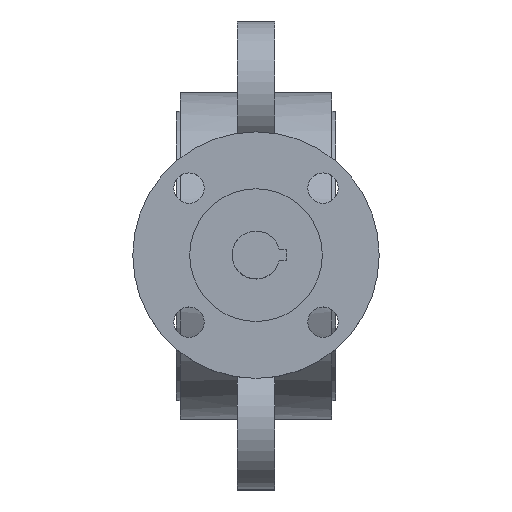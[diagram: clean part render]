
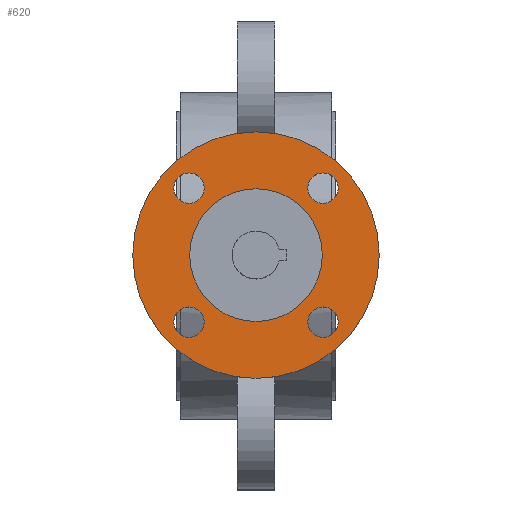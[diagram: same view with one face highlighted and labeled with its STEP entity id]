
A CAD part, top view. The second image highlights one B-rep face of the part: STEP entity #620.
In plain terms, the highlighted planar face has unit normal (0, 0, 1).
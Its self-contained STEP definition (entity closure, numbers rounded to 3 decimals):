
#620=ADVANCED_FACE('',(#1381,#1383,#1385,#1387,#1389,#1391),#1393,.T.);
#1381=FACE_BOUND('',#1382,.T.);
#1382=EDGE_LOOP('',(#1876));
#1383=FACE_BOUND('',#1384,.T.);
#1384=EDGE_LOOP('',(#1877));
#1385=FACE_BOUND('',#1386,.T.);
#1386=EDGE_LOOP('',(#1878));
#1387=FACE_BOUND('',#1388,.T.);
#1388=EDGE_LOOP('',(#1879));
#1389=FACE_BOUND('',#1390,.T.);
#1390=EDGE_LOOP('',(#1880));
#1391=FACE_BOUND('',#1392,.T.);
#1392=EDGE_LOOP('',(#1881));
#1393=PLANE('',#1394);
#1394=AXIS2_PLACEMENT_3D('',#1395,#1396,#1397);
#1395=CARTESIAN_POINT('',(0.,0.,132.));
#1396=DIRECTION('',(0.,0.,1.));
#1397=DIRECTION('',(0.,1.,0.));
#1876=ORIENTED_EDGE('',*,*,#2122,.F.);
#1877=ORIENTED_EDGE('',*,*,#2123,.T.);
#1878=ORIENTED_EDGE('',*,*,#2124,.T.);
#1879=ORIENTED_EDGE('',*,*,#2125,.T.);
#1880=ORIENTED_EDGE('',*,*,#2141,.T.);
#1881=ORIENTED_EDGE('',*,*,#2126,.T.);
#2122=EDGE_CURVE('',#2425,#2425,#2426,.T.);
#2123=EDGE_CURVE('',#2427,#2427,#2428,.F.);
#2124=EDGE_CURVE('',#2429,#2429,#2430,.F.);
#2125=EDGE_CURVE('',#2431,#2431,#2432,.F.);
#2126=EDGE_CURVE('',#2433,#2433,#2434,.F.);
#2141=EDGE_CURVE('',#2463,#2463,#2464,.T.);
#2425=VERTEX_POINT('',#4129);
#2426=CIRCLE('',#4130,32.5);
#2427=VERTEX_POINT('',#4134);
#2428=CIRCLE('',#4135,4.);
#2429=VERTEX_POINT('',#4139);
#2430=CIRCLE('',#4140,4.);
#2431=VERTEX_POINT('',#4144);
#2432=CIRCLE('',#4145,4.);
#2433=VERTEX_POINT('',#4149);
#2434=CIRCLE('',#4150,4.);
#2463=VERTEX_POINT('',#4217);
#2464=CIRCLE('',#4218,17.5);
#4129=CARTESIAN_POINT('',(0.,32.5,132.));
#4130=AXIS2_PLACEMENT_3D('',#4131,#4132,#4133);
#4131=CARTESIAN_POINT('',(0.,0.,132.));
#4132=DIRECTION('',(0.,0.,-1.));
#4133=DIRECTION('',(0.,1.,0.));
#4134=CARTESIAN_POINT('',(-13.678,-17.678,132.));
#4135=AXIS2_PLACEMENT_3D('',#4136,#4137,#4138);
#4136=CARTESIAN_POINT('',(-17.678,-17.678,132.));
#4137=DIRECTION('',(0.,0.,1.));
#4138=DIRECTION('',(1.,0.,0.));
#4139=CARTESIAN_POINT('',(-17.678,13.678,132.));
#4140=AXIS2_PLACEMENT_3D('',#4141,#4142,#4143);
#4141=CARTESIAN_POINT('',(-17.678,17.678,132.));
#4142=DIRECTION('',(0.,0.,1.));
#4143=DIRECTION('',(0.,-1.,0.));
#4144=CARTESIAN_POINT('',(13.678,17.678,132.));
#4145=AXIS2_PLACEMENT_3D('',#4146,#4147,#4148);
#4146=CARTESIAN_POINT('',(17.678,17.678,132.));
#4147=DIRECTION('',(0.,0.,1.));
#4148=DIRECTION('',(-1.,0.,0.));
#4149=CARTESIAN_POINT('',(17.678,-13.678,132.));
#4150=AXIS2_PLACEMENT_3D('',#4151,#4152,#4153);
#4151=CARTESIAN_POINT('',(17.678,-17.678,132.));
#4152=DIRECTION('',(0.,0.,1.));
#4153=DIRECTION('',(0.,1.,0.));
#4217=CARTESIAN_POINT('',(0.,17.5,132.));
#4218=AXIS2_PLACEMENT_3D('',#4219,#4220,#4221);
#4219=CARTESIAN_POINT('',(0.,0.,132.));
#4220=DIRECTION('',(0.,0.,-1.));
#4221=DIRECTION('',(0.,1.,0.));
